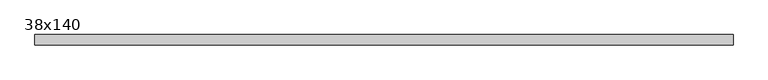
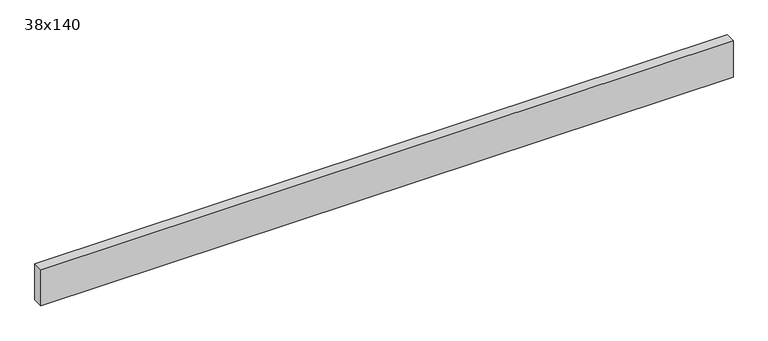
"""IFC4 building model written with IfcOpenShell, lengths in millimetres: beam geometry, Graded Timber : 38x140."""

from ifc_helpers import new_model, si_unit, frame, origin, place, context, project, spatial, polyline, outline, extrude, source, transform, mapped, element, save


def beam_38x140_a842bf6c(model_context):
    return source(origin(), model_context, "Body", "SweptSolid", [
        extrude(outline(polyline([(1259.0, 19.0), (1259.0, -19.0), (-1275.5659527, -19.0), (-1275.5659527, 19.0), (1259.0, 19.0)])), frame((0.0, 0.0, -70.0), z_axis=(0.0, 0.0, 1.0), x_axis=(1.0, 0.0, 0.0)), (0.0, 0.0, 1.0), 140.0),
    ])


if __name__ == "__main__":
    model = new_model("IFC4")
    model_context = context("Model", 3, world=origin())
    ifc_project = project(units=[si_unit("LENGTHUNIT", "METRE", prefix="MILLI")], contexts=[model_context])
    site = spatial("IfcSite", under=ifc_project)
    building = spatial("IfcBuilding", under=site)
    placement = place(None, origin())
    beam_38x140_shape = beam_38x140_a842bf6c(model_context)
    element("IfcBeam", 1, ObjectType="Graded Timber : 38x140", at=placement, inside=building, context=model_context, shape_type="MappedRepresentation", body=[
        mapped(beam_38x140_shape, transform((0.0, 0.0, 0.0), x_axis=(1.0, 0.0, 0.0), y_axis=(0.0, 1.0, 0.0), z_axis=(0.0, 0.0, 1.0))),
    ])
    save(model, "model.ifc")
